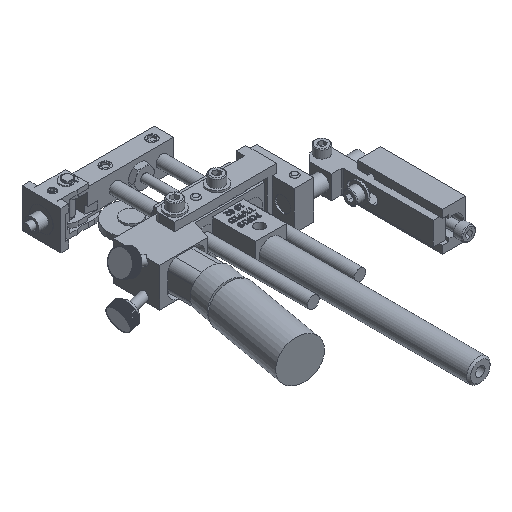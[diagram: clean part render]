
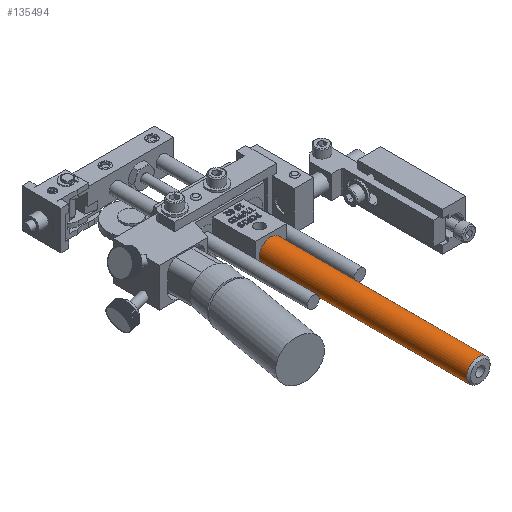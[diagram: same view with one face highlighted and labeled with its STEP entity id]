
A CAD part, isometric view. The second image highlights one B-rep face of the part: STEP entity #135494.
In plain terms, the highlighted cylindrical face has radius 4.763 mm (diameter 9.525 mm), a full revolution.
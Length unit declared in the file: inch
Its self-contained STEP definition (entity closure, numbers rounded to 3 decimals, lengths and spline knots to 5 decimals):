
#135270=CARTESIAN_POINT('',(0.44663,-2.32333,-0.04751));
#135271=VERTEX_POINT('',#135270);
#135272=CARTESIAN_POINT('',(0.44663,-2.32333,-0.23501));
#135273=DIRECTION('',(0.,1.0,0.));
#135274=DIRECTION('',(0.,0.,-1.0));
#135275=AXIS2_PLACEMENT_3D('',#135272,#135273,#135274);
#135276=CIRCLE('',#135275,0.1875);
#135277=EDGE_CURVE('',#135271,#135271,#135276,.T.);
#135475=CARTESIAN_POINT('',(0.44663,-2.32333,-0.23501));
#135476=DIRECTION('',(0.,-1.0,0.));
#135477=DIRECTION('',(0.,0.,-1.0));
#135478=AXIS2_PLACEMENT_3D('',#135475,#135476,#135477);
#135479=CYLINDRICAL_SURFACE('',#135478,0.1875);
#135480=ORIENTED_EDGE('',*,*,#135277,.F.);
#135481=EDGE_LOOP('',(#135480));
#135482=FACE_OUTER_BOUND('',#135481,.T.);
#135483=CARTESIAN_POINT('',(0.44663,-5.66833,-0.04751));
#135484=VERTEX_POINT('',#135483);
#135485=CARTESIAN_POINT('',(0.44663,-5.66833,-0.23501));
#135486=DIRECTION('',(0.,-1.0,0.));
#135487=DIRECTION('',(0.,0.,-1.0));
#135488=AXIS2_PLACEMENT_3D('',#135485,#135486,#135487);
#135489=CIRCLE('',#135488,0.1875);
#135490=EDGE_CURVE('',#135484,#135484,#135489,.T.);
#135491=ORIENTED_EDGE('',*,*,#135490,.F.);
#135492=EDGE_LOOP('',(#135491));
#135493=FACE_BOUND('',#135492,.T.);
#135494=ADVANCED_FACE('',(#135482,#135493),#135479,.T.);
